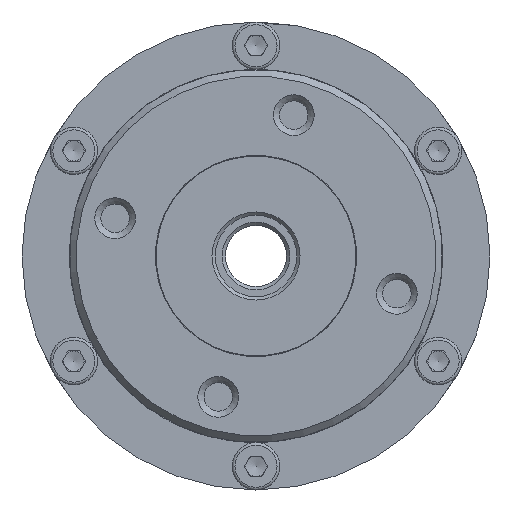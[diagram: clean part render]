
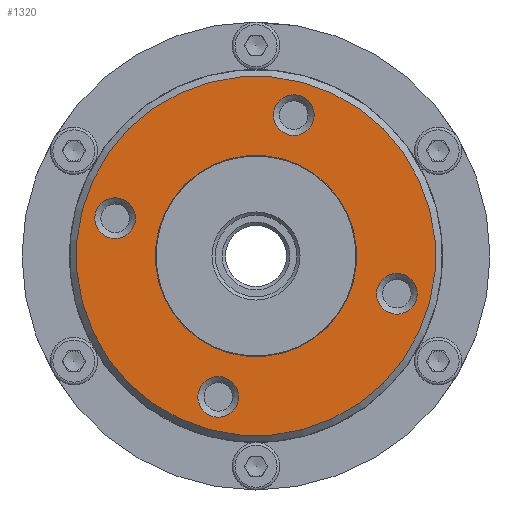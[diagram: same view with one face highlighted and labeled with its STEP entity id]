
A CAD part, left-side view. The second image highlights one B-rep face of the part: STEP entity #1320.
In plain terms, the highlighted planar face has unit normal (-1, 0, 0).
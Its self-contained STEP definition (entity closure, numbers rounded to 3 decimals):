
#1320 = ADVANCED_FACE( '', ( #3472, #3473, #3474, #3475, #3476, #3477 ), #3478, .T. );
#3472 = FACE_OUTER_BOUND( '', #6747, .T. );
#3473 = FACE_BOUND( '', #6748, .T. );
#3474 = FACE_BOUND( '', #6749, .T. );
#3475 = FACE_BOUND( '', #6750, .T. );
#3476 = FACE_BOUND( '', #6751, .T. );
#3477 = FACE_BOUND( '', #6752, .T. );
#3478 = PLANE( '', #6753 );
#6747 = EDGE_LOOP( '', ( #10965 ) );
#6748 = EDGE_LOOP( '', ( #10966 ) );
#6749 = EDGE_LOOP( '', ( #10967 ) );
#6750 = EDGE_LOOP( '', ( #10968 ) );
#6751 = EDGE_LOOP( '', ( #10969 ) );
#6752 = EDGE_LOOP( '', ( #10970 ) );
#6753 = AXIS2_PLACEMENT_3D( '', #10971, #10972, #10973 );
#10965 = ORIENTED_EDGE( '', *, *, #18547, .T. );
#10966 = ORIENTED_EDGE( '', *, *, #18548, .T. );
#10967 = ORIENTED_EDGE( '', *, *, #18270, .T. );
#10968 = ORIENTED_EDGE( '', *, *, #18549, .T. );
#10969 = ORIENTED_EDGE( '', *, *, #18550, .T. );
#10970 = ORIENTED_EDGE( '', *, *, #18551, .F. );
#10971 = CARTESIAN_POINT( '', ( -58.5, -3.843, 14.344 ) );
#10972 = DIRECTION( '', ( -1., 0., 0. ) );
#10973 = DIRECTION( '', ( 0., 0., 1. ) );
#18270 = EDGE_CURVE( '', #21736, #21736, #21737, .T. );
#18547 = EDGE_CURVE( '', #22192, #22192, #22193, .T. );
#18548 = EDGE_CURVE( '', #22194, #22194, #22195, .T. );
#18549 = EDGE_CURVE( '', #22196, #22196, #22197, .T. );
#18550 = EDGE_CURVE( '', #22198, #22198, #22199, .T. );
#18551 = EDGE_CURVE( '', #22200, #22200, #22201, .T. );
#21736 = VERTEX_POINT( '', #26962 );
#21737 = CIRCLE( '', #26963, 3. );
#22192 = VERTEX_POINT( '', #27819 );
#22193 = CIRCLE( '', #27820, 26.5 );
#22194 = VERTEX_POINT( '', #27821 );
#22195 = CIRCLE( '', #27822, 3. );
#22196 = VERTEX_POINT( '', #27823 );
#22197 = CIRCLE( '', #27824, 3. );
#22198 = VERTEX_POINT( '', #27825 );
#22199 = CIRCLE( '', #27826, 3. );
#22200 = VERTEX_POINT( '', #27827 );
#22201 = CIRCLE( '', #27828, 14.85 );
#26962 = CARTESIAN_POINT( '', ( -58.5, 21.544, 2.667 ) );
#26963 = AXIS2_PLACEMENT_3D( '', #34341, #34342, #34343 );
#27819 = CARTESIAN_POINT( '', ( -58.5, -6.859, 25.597 ) );
#27820 = AXIS2_PLACEMENT_3D( '', #34673, #34674, #34675 );
#27821 = CARTESIAN_POINT( '', ( -58.5, -4.788, 17.87 ) );
#27822 = AXIS2_PLACEMENT_3D( '', #34676, #34677, #34678 );
#27823 = CARTESIAN_POINT( '', ( -58.5, 6.341, -23.665 ) );
#27824 = AXIS2_PLACEMENT_3D( '', #34679, #34680, #34681 );
#27825 = CARTESIAN_POINT( '', ( -58.5, -19.991, -8.462 ) );
#27826 = AXIS2_PLACEMENT_3D( '', #34682, #34683, #34684 );
#27827 = CARTESIAN_POINT( '', ( -58.5, -3.843, 14.344 ) );
#27828 = AXIS2_PLACEMENT_3D( '', #34685, #34686, #34687 );
#34341 = CARTESIAN_POINT( '', ( -58.5, 20.767, 5.565 ) );
#34342 = DIRECTION( '', ( 1., 0., 0. ) );
#34343 = DIRECTION( '', ( 0., 0.259, -0.966 ) );
#34673 = CARTESIAN_POINT( '', ( -58.5, 0., 0. ) );
#34674 = DIRECTION( '', ( -1., 0., 0. ) );
#34675 = DIRECTION( '', ( 0., -0.259, 0.966 ) );
#34676 = CARTESIAN_POINT( '', ( -58.5, -5.565, 20.767 ) );
#34677 = DIRECTION( '', ( 1., 0., 0. ) );
#34678 = DIRECTION( '', ( 0., 0.259, -0.966 ) );
#34679 = CARTESIAN_POINT( '', ( -58.5, 5.565, -20.767 ) );
#34680 = DIRECTION( '', ( 1., 0., 0. ) );
#34681 = DIRECTION( '', ( 0., 0.259, -0.966 ) );
#34682 = CARTESIAN_POINT( '', ( -58.5, -20.767, -5.565 ) );
#34683 = DIRECTION( '', ( 1., 0., 0. ) );
#34684 = DIRECTION( '', ( 0., 0.259, -0.966 ) );
#34685 = CARTESIAN_POINT( '', ( -58.5, 0., 0. ) );
#34686 = DIRECTION( '', ( -1., 0., 0. ) );
#34687 = DIRECTION( '', ( 0., -0.259, 0.966 ) );
